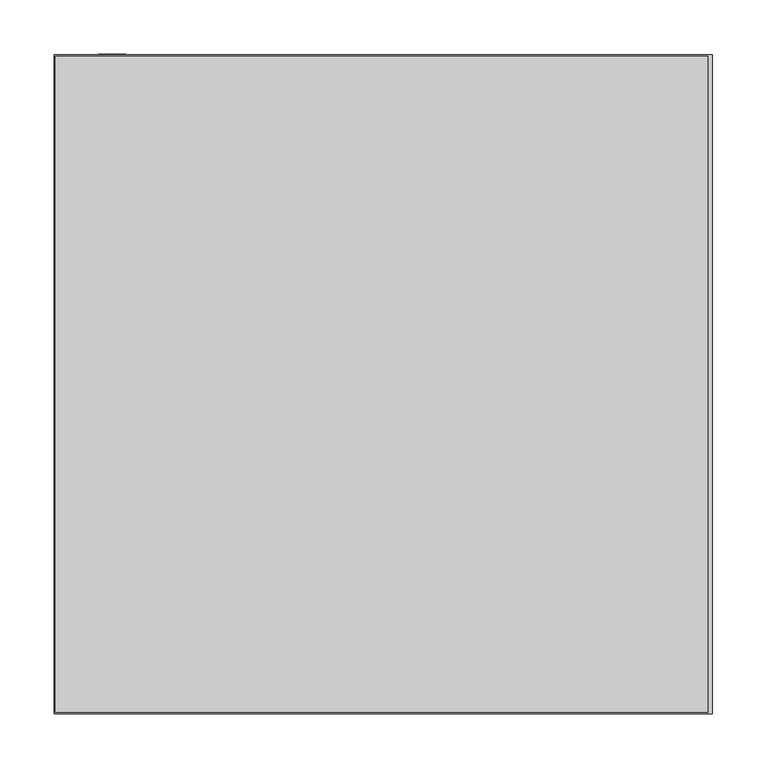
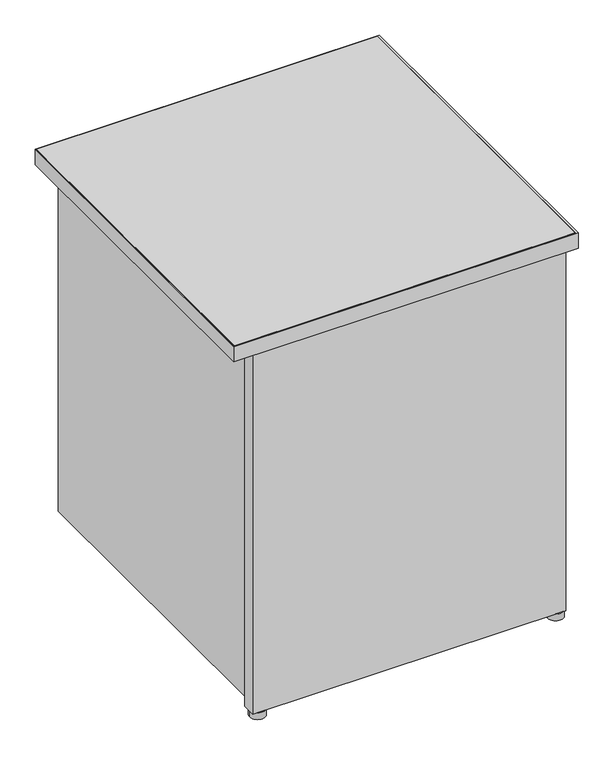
"""IFC4 building model written with IfcOpenShell, lengths in millimetres: furniture geometry, Steelcase - Kick Freestanding - Desk - Return - Full Height Modesty Panel : 24D x 24W - Left."""

from ifc_helpers import new_model, si_unit, point, frame, frame_2d, origin, origin_with_axes, place, context, project, spatial, polyline, circle_curve, trimmed, segment, composite_curve, outline, extrude, source, transform, mapped, element, save


def furniture_e8a1a154(model_context):
    return source(origin(), model_context, "Body", "SweptSolid", [
        extrude(outline(composite_curve([segment(trimmed(circle_curve(frame_2d((2220.2474425, -1131.0145152)), 13.97), [point((2206.2774425, -1131.0145152))], [point((2234.2174425, -1131.0145152))], False, "CARTESIAN"), True, "CONTINUOUS"), segment(trimmed(circle_curve(frame_2d((2220.2474425, -1131.0145152)), 13.97), [point((2234.2174425, -1131.0145152))], [point((2206.2774425, -1131.0145152))], False, "CARTESIAN"), True, "CONTINUOUS")], self_intersect=False)), origin_with_axes(), (0.0, 0.0, 1.0), 12.7),
        extrude(outline(composite_curve([segment(trimmed(circle_curve(frame_2d((2748.0594425, -1131.0145152)), 13.97), [point((2734.0894425, -1131.0145152))], [point((2762.0294425, -1131.0145152))], False, "CARTESIAN"), True, "CONTINUOUS"), segment(trimmed(circle_curve(frame_2d((2748.0594425, -1131.0145152)), 13.97), [point((2762.0294425, -1131.0145152))], [point((2734.0894425, -1131.0145152))], False, "CARTESIAN"), True, "CONTINUOUS")], self_intersect=False)), origin_with_axes(), (0.0, 0.0, 1.0), 12.7),
        extrude(outline(polyline([(2205.0074425, -1118.4669152), (2328.2736437, -1118.4669152), (2328.2736437, -1140.8951136), (2427.9940467, -1140.8951136), (2427.9940467, -1118.4669041), (2536.7314502, -1118.4669041), (2536.7314502, -1140.8951136), (2636.4518532, -1140.8951136), (2636.4518532, -1118.4669041), (2759.4894376, -1118.4669041), (2759.4894376, -1142.9525098), (2205.0074425, -1142.9525098), (2205.0074425, -1118.4669152)])), frame((0.0, 0.0, 12.7), z_axis=(0.0, 0.0, 1.0), x_axis=(1.0, 0.0, 0.0)), (0.0, 0.0, 1.0), 682.244),
        extrude(outline(polyline([(2230.4074426, -546.0525152), (2230.4074426, -1118.4669152), (2205.0074425, -1118.4669152), (2205.0074425, -546.0525152), (2230.4074426, -546.0525152)])), frame((0.0, 0.0, 31.242), z_axis=(0.0, 0.0, 1.0), x_axis=(1.0, 0.0, 0.0)), (0.0, 0.0, 1.0), 663.702),
        extrude(outline(polyline([(2769.2176592, -548.0845152), (2769.2176592, -1155.1445152), (2164.8500425, -1155.1445152), (2164.8500425, -548.0845152), (2769.2176592, -548.0845152)])), frame((0.0, 0.0, 694.944), z_axis=(0.0, 0.0, 1.0), x_axis=(1.0, 0.0, 0.0)), (0.0, 0.0, 1.0), 28.956),
        extrude(outline(polyline([(2773.4594425, -546.8145152), (2773.4594425, -1156.4145152), (2163.8594425, -1156.4145152), (2163.8594425, -546.8145152), (2773.4594425, -546.8145152)]), holes=[polyline([(2769.2176592, -548.0845152), (2164.8500425, -548.0845152), (2164.8500425, -1155.1445152), (2769.2176592, -1155.1445152), (2769.2176592, -548.0845152)])]), frame((0.0, 0.0, 694.944), z_axis=(0.0, 0.0, 1.0), x_axis=(1.0, 0.0, 0.0)), (0.0, 0.0, 1.0), 28.956),
    ])


if __name__ == "__main__":
    model = new_model("IFC4")
    model_context = context("Model", 3, world=origin())
    ifc_project = project(units=[si_unit("LENGTHUNIT", "METRE", prefix="MILLI")], contexts=[model_context])
    site = spatial("IfcSite", under=ifc_project)
    building = spatial("IfcBuilding", under=site)
    placement = place(None, origin())
    furniture_shape = furniture_e8a1a154(model_context)
    element("IfcFurniture", 1, ObjectType="Steelcase - Kick Freestanding - Desk - Return - Full Height Modesty Panel : 24D x 24W - Left", at=placement, inside=building, context=model_context, shape_type="MappedRepresentation", body=[
        mapped(furniture_shape, transform((0.0, 0.0, 0.0), x_axis=(1.0, 0.0, 0.0), y_axis=(0.0, 1.0, 0.0), z_axis=(0.0, 0.0, 1.0))),
    ])
    save(model, "model.ifc")
